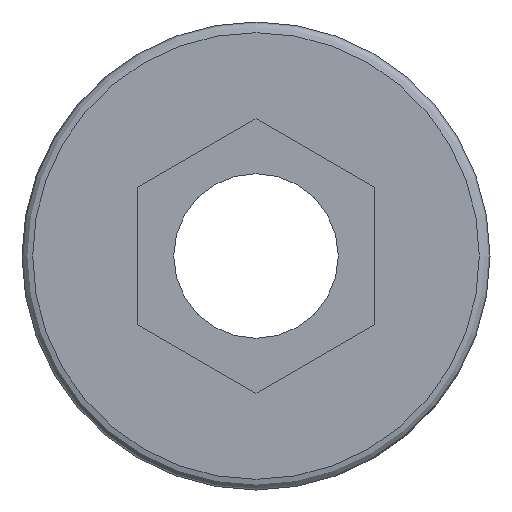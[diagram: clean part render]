
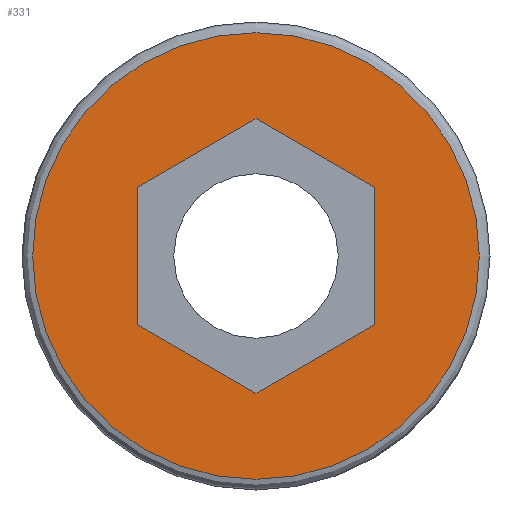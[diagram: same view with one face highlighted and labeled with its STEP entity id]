
A CAD part, front view. The second image highlights one B-rep face of the part: STEP entity #331.
In plain terms, the highlighted planar face has unit normal (0, -1, 0).
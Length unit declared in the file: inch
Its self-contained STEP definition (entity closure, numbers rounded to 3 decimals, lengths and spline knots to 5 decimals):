
#17=FACE_BOUND('',#108,.T.);
#22=PLANE('',#378);
#34=LINE('',#550,#57);
#35=LINE('',#552,#58);
#36=LINE('',#554,#59);
#37=LINE('',#556,#60);
#38=LINE('',#558,#61);
#39=LINE('',#559,#62);
#57=VECTOR('',#446,0.3937);
#58=VECTOR('',#447,0.3937);
#59=VECTOR('',#448,0.3937);
#60=VECTOR('',#449,0.3937);
#61=VECTOR('',#450,0.3937);
#62=VECTOR('',#451,0.3937);
#87=FACE_OUTER_BOUND('',#107,.T.);
#107=EDGE_LOOP('',(#253,#254));
#108=EDGE_LOOP('',(#255,#256,#257,#258,#259,#260));
#132=CIRCLE('',#370,0.1465);
#136=CIRCLE('',#374,0.1465);
#155=VERTEX_POINT('',#532);
#156=VERTEX_POINT('',#533);
#161=VERTEX_POINT('',#548);
#162=VERTEX_POINT('',#549);
#163=VERTEX_POINT('',#551);
#164=VERTEX_POINT('',#553);
#165=VERTEX_POINT('',#555);
#166=VERTEX_POINT('',#557);
#190=EDGE_CURVE('',#155,#156,#132,.T.);
#194=EDGE_CURVE('',#156,#155,#136,.T.);
#198=EDGE_CURVE('',#161,#162,#34,.T.);
#199=EDGE_CURVE('',#162,#163,#35,.T.);
#200=EDGE_CURVE('',#163,#164,#36,.T.);
#201=EDGE_CURVE('',#164,#165,#37,.T.);
#202=EDGE_CURVE('',#165,#166,#38,.T.);
#203=EDGE_CURVE('',#166,#161,#39,.T.);
#253=ORIENTED_EDGE('',*,*,#190,.F.);
#254=ORIENTED_EDGE('',*,*,#194,.F.);
#255=ORIENTED_EDGE('',*,*,#198,.T.);
#256=ORIENTED_EDGE('',*,*,#199,.T.);
#257=ORIENTED_EDGE('',*,*,#200,.T.);
#258=ORIENTED_EDGE('',*,*,#201,.T.);
#259=ORIENTED_EDGE('',*,*,#202,.T.);
#260=ORIENTED_EDGE('',*,*,#203,.T.);
#331=ADVANCED_FACE('',(#87,#17),#22,.T.);
#370=AXIS2_PLACEMENT_3D('',#534,#427,#428);
#374=AXIS2_PLACEMENT_3D('',#540,#435,#436);
#378=AXIS2_PLACEMENT_3D('',#547,#444,#445);
#427=DIRECTION('center_axis',(0.,1.,0.));
#428=DIRECTION('ref_axis',(0.,0.,1.));
#435=DIRECTION('center_axis',(0.,1.,0.));
#436=DIRECTION('ref_axis',(0.,0.,1.));
#444=DIRECTION('center_axis',(0.,-1.,0.));
#445=DIRECTION('ref_axis',(0.,0.,-1.));
#446=DIRECTION('',(0.866,0.,-0.5));
#447=DIRECTION('',(0.,0.,-1.));
#448=DIRECTION('',(-0.866,0.,-0.5));
#449=DIRECTION('',(-0.866,0.,0.5));
#450=DIRECTION('',(0.,0.,1.));
#451=DIRECTION('',(0.866,0.,0.5));
#532=CARTESIAN_POINT('',(0.,0.,-0.1465));
#533=CARTESIAN_POINT('',(0.,0.,0.1465));
#534=CARTESIAN_POINT('Origin',(0.,0.,0.));
#540=CARTESIAN_POINT('Origin',(0.,0.,0.));
#547=CARTESIAN_POINT('Origin',(0.,0.,-0.054));
#548=CARTESIAN_POINT('',(0.,0.,0.09007));
#549=CARTESIAN_POINT('',(0.078,0.,0.04503));
#550=CARTESIAN_POINT('',(0.03119,0.,0.07206));
#551=CARTESIAN_POINT('',(0.078,0.,-0.04503));
#552=CARTESIAN_POINT('',(0.078,0.,-0.00448));
#553=CARTESIAN_POINT('',(0.,0.,-0.09007));
#554=CARTESIAN_POINT('',(0.04681,0.,-0.06304));
#555=CARTESIAN_POINT('',(-0.078,0.,-0.04503));
#556=CARTESIAN_POINT('',(-0.00781,0.,-0.08556));
#557=CARTESIAN_POINT('',(-0.078,0.,0.04503));
#558=CARTESIAN_POINT('',(-0.078,0.,-0.04952));
#559=CARTESIAN_POINT('',(-0.07019,0.,0.04954));
